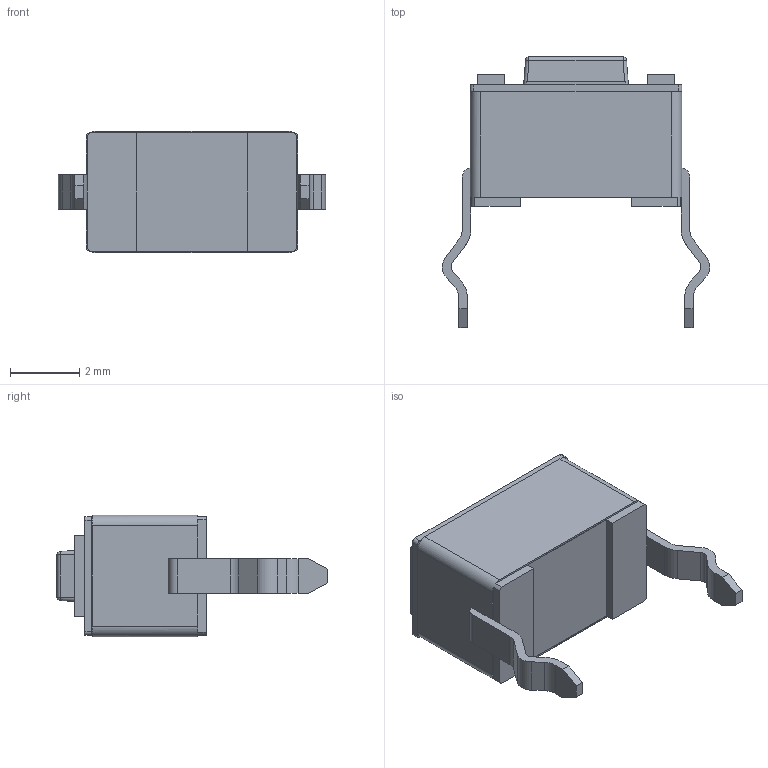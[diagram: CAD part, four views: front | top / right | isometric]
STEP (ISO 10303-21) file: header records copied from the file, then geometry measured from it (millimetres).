
FILE_DESCRIPTION((''),'2;1');
FILE_NAME('ASM0003_ASM','2024-01-09T',('WYH'),(''),'PRO/ENGINEER BY PARAMETRIC TECHNOLOGY CORPORATION, 2013040','PRO/ENGINEER BY PARAMETRIC TECHNOLOGY CORPORATION, 2013040','');
FILE_SCHEMA(('CONFIG_CONTROL_DESIGN'));
Length unit declared in the file: millimetre
Products named in the file (1): ASM0003_ASM
Bounding box: 7.7 x 7.82 x 3.5 mm (x, y, z)
Volume: 78.1 mm3; surface area: 178.8 mm2
Topology: 1 solids, 1 shells, 182 faces, 498 edges, 328 vertices
Faces by surface type: plane 132, cylinder 46, sphere 4
Entity records: 5810 total; most frequent: CARTESIAN_POINT 1106, ORIENTED_EDGE 996, DIRECTION 926, EDGE_CURVE 498, VECTOR 370, LINE 370, VERTEX_POINT 328, AXIS2_PLACEMENT_3D 278
